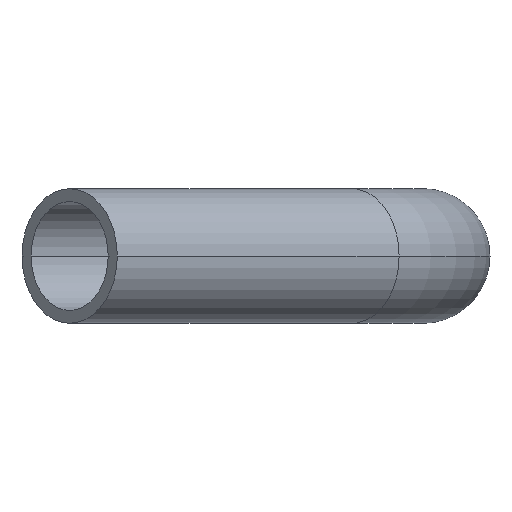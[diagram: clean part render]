
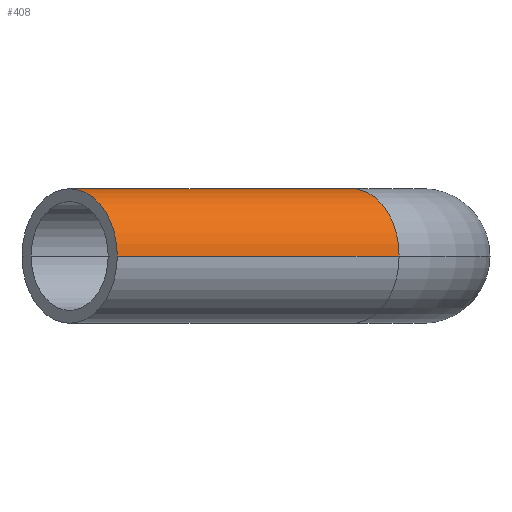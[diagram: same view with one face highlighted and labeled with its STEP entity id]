
A CAD part, left-side view. The second image highlights one B-rep face of the part: STEP entity #408.
In plain terms, the highlighted cylindrical face has radius 55.2 mm (diameter 110.4 mm), a partial arc.
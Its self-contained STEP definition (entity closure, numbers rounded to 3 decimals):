
#15 = DIRECTION ( 'NONE',  ( 0., 0., -1. ) ) ;
#25 = CARTESIAN_POINT ( 'NONE',  ( -58.286, 58.286, 0. ) ) ;
#28 = CARTESIAN_POINT ( 'NONE',  ( -97.318, 19.253, 0. ) ) ;
#40 = DIRECTION ( 'NONE',  ( -0.707, 0.707, 0. ) ) ;
#49 = DIRECTION ( 'NONE',  ( 0.707, -0.707, 0. ) ) ;
#64 = DIRECTION ( 'NONE',  ( 0.707, -0.707, 0. ) ) ;
#65 = FACE_OUTER_BOUND ( 'NONE', #274, .T. ) ;
#66 = CYLINDRICAL_SURFACE ( 'NONE', #345, 55.2 ) ;
#71 = DIRECTION ( 'NONE',  ( -0.707, -0.707, 0. ) ) ;
#95 = DIRECTION ( 'NONE',  ( -0.707, 0.707, 0. ) ) ;
#100 = CARTESIAN_POINT ( 'NONE',  ( -250.174, 328.239, 0. ) ) ;
#104 = CARTESIAN_POINT ( 'NONE',  ( -19.253, 97.318, 0. ) ) ;
#108 = CARTESIAN_POINT ( 'NONE',  ( -97.318, 19.253, 0. ) ) ;
#109 = CARTESIAN_POINT ( 'NONE',  ( -328.239, 250.174, 0. ) ) ;
#126 = CARTESIAN_POINT ( 'NONE',  ( -19.253, 97.318, 0. ) ) ;
#140 = DIRECTION ( 'NONE',  ( -0.707, 0.707, 0. ) ) ;
#143 = CARTESIAN_POINT ( 'NONE',  ( -58.286, 58.286, 0. ) ) ;
#145 = CARTESIAN_POINT ( 'NONE',  ( -289.207, 289.207, 0. ) ) ;
#172 = DIRECTION ( 'NONE',  ( 0., 0., -1. ) ) ;
#198 = ORIENTED_EDGE ( 'NONE', *, *, #344, .F. ) ;
#217 = ORIENTED_EDGE ( 'NONE', *, *, #331, .T. ) ;
#238 = VECTOR ( 'NONE', #40, 1000. ) ;
#239 = VERTEX_POINT ( 'NONE', #126 ) ;
#245 = CIRCLE ( 'NONE', #375, 55.2 ) ;
#254 = VECTOR ( 'NONE', #140, 1000. ) ;
#256 = VERTEX_POINT ( 'NONE', #100 ) ;
#260 = ORIENTED_EDGE ( 'NONE', *, *, #348, .F. ) ;
#268 = LINE ( 'NONE', #28, #254 ) ;
#274 = EDGE_LOOP ( 'NONE', ( #260, #217, #321, #198 ) ) ;
#277 = VERTEX_POINT ( 'NONE', #108 ) ;
#281 = CIRCLE ( 'NONE', #349, 55.2 ) ;
#288 = VERTEX_POINT ( 'NONE', #109 ) ;
#321 = ORIENTED_EDGE ( 'NONE', *, *, #329, .T. ) ;
#323 = LINE ( 'NONE', #104, #238 ) ;
#329 = EDGE_CURVE ( 'NONE', #256, #288, #245, .T. ) ;
#331 = EDGE_CURVE ( 'NONE', #239, #256, #323, .T. ) ;
#344 = EDGE_CURVE ( 'NONE', #277, #288, #268, .T. ) ;
#345 = AXIS2_PLACEMENT_3D ( 'NONE', #143, #95, #71 ) ;
#348 = EDGE_CURVE ( 'NONE', #239, #277, #281, .T. ) ;
#349 = AXIS2_PLACEMENT_3D ( 'NONE', #25, #49, #15 ) ;
#375 = AXIS2_PLACEMENT_3D ( 'NONE', #145, #64, #172 ) ;
#408 = ADVANCED_FACE ( 'NONE', ( #65 ), #66, .T. ) ;
